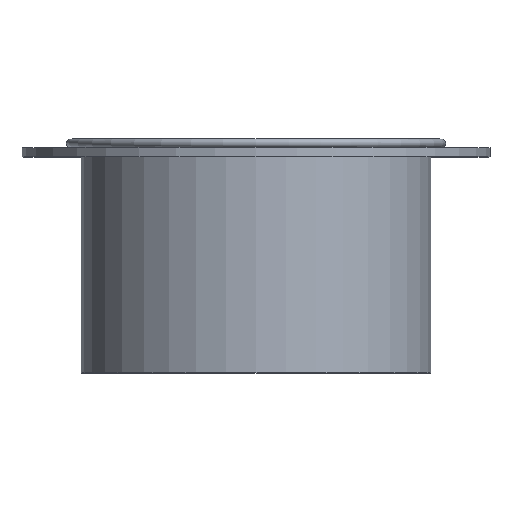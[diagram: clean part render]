
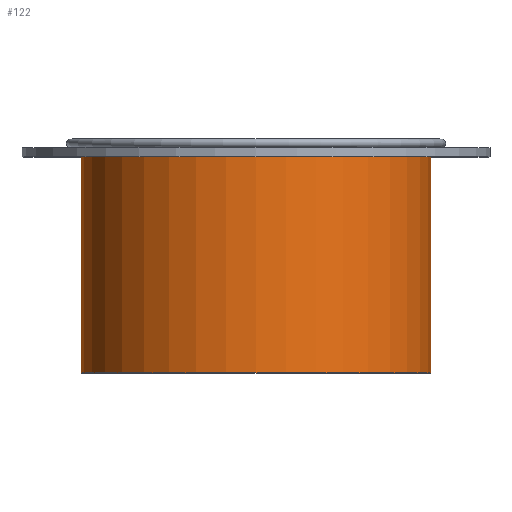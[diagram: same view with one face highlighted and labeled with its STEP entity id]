
A CAD part, top view. The second image highlights one B-rep face of the part: STEP entity #122.
In plain terms, the highlighted cylindrical face has radius 75.8 mm (diameter 151.6 mm), a full revolution.
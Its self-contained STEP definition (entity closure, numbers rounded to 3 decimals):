
#105=CYLINDRICAL_SURFACE('',#443,75.8);
#122=ADVANCED_FACE('',(#161,#162),#105,.T.);
#161=FACE_BOUND('',#223,.T.);
#162=FACE_BOUND('',#224,.T.);
#223=EDGE_LOOP('',(#285));
#224=EDGE_LOOP('',(#286));
#285=ORIENTED_EDGE('',*,*,#374,.F.);
#286=ORIENTED_EDGE('',*,*,#369,.T.);
#338=VERTEX_POINT('',#605);
#343=VERTEX_POINT('',#619);
#369=EDGE_CURVE('',#338,#338,#400,.T.);
#374=EDGE_CURVE('',#343,#343,#405,.T.);
#400=CIRCLE('',#432,75.8);
#405=CIRCLE('',#441,75.8);
#432=AXIS2_PLACEMENT_3D('',#604,#491,#492);
#441=AXIS2_PLACEMENT_3D('',#618,#509,#510);
#443=AXIS2_PLACEMENT_3D('',#621,#513,#514);
#491=DIRECTION('',(0.,1.,0.));
#492=DIRECTION('',(1.,0.,0.));
#509=DIRECTION('',(0.,1.,0.));
#510=DIRECTION('',(1.,0.,0.));
#513=DIRECTION('',(0.,1.,0.));
#514=DIRECTION('',(1.,0.,0.));
#604=CARTESIAN_POINT('',(0.,0.,0.));
#605=CARTESIAN_POINT('',(75.8,0.,0.));
#618=CARTESIAN_POINT('',(0.,99.2,0.));
#619=CARTESIAN_POINT('',(75.8,99.2,0.));
#621=CARTESIAN_POINT('',(0.,-192.076,0.));
